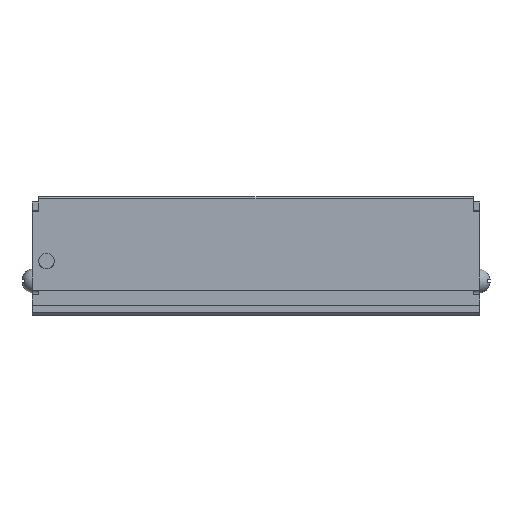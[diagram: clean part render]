
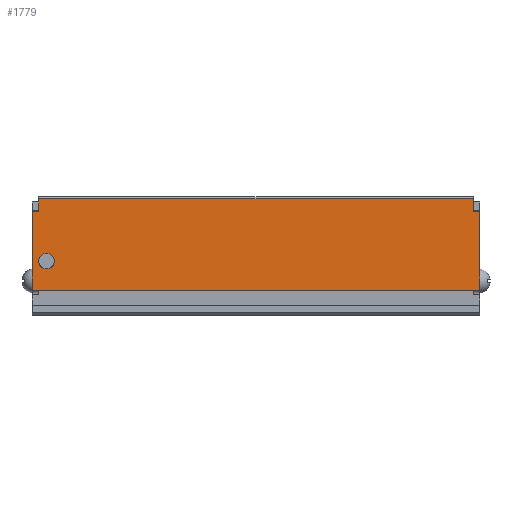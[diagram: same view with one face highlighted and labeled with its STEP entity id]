
A CAD part, top view. The second image highlights one B-rep face of the part: STEP entity #1779.
In plain terms, the highlighted planar face has unit normal (0, 0, 1) as drawn and (1, 0, 0) by its records, which use the part's own axes.
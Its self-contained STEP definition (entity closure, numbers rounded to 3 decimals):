
#117=DIRECTION('',(0.,0.,1.));
#118=VECTOR('',#117,1.5);
#119=CARTESIAN_POINT('',(9.,13.698,-51.));
#120=LINE('',#119,#118);
#133=CARTESIAN_POINT('',(9.,2.3,47.75));
#134=DIRECTION('',(1.,0.,0.));
#135=DIRECTION('',(0.,0.,-1.));
#136=AXIS2_PLACEMENT_3D('',#133,#134,#135);
#138=CARTESIAN_POINT('',(9.,2.3,47.75));
#139=DIRECTION('',(1.,0.,0.));
#140=DIRECTION('',(0.,0.,1.));
#141=AXIS2_PLACEMENT_3D('',#138,#139,#140);
#143=DIRECTION('',(0.,0.,-1.));
#144=VECTOR('',#143,1.5);
#145=CARTESIAN_POINT('',(9.,13.698,51.));
#146=LINE('',#145,#144);
#147=DIRECTION('',(0.,0.,-1.));
#148=VECTOR('',#147,99.);
#149=CARTESIAN_POINT('',(9.,16.5,49.5));
#150=LINE('',#149,#148);
#151=DIRECTION('',(0.,-1.,0.));
#152=VECTOR('',#151,2.801);
#153=CARTESIAN_POINT('',(9.,16.5,-49.5));
#154=LINE('',#153,#152);
#173=DIRECTION('',(0.,0.,-1.));
#174=VECTOR('',#173,102.);
#175=CARTESIAN_POINT('',(9.,-4.3,51.));
#176=LINE('',#175,#174);
#493=DIRECTION('',(0.,-1.,0.));
#494=VECTOR('',#493,2.802);
#495=CARTESIAN_POINT('',(9.,16.5,49.5));
#496=LINE('',#495,#494);
#755=DIRECTION('',(0.,-1.,0.));
#756=VECTOR('',#755,17.998);
#757=CARTESIAN_POINT('',(9.,13.698,51.));
#758=LINE('',#757,#756);
#963=DIRECTION('',(0.,1.,0.));
#964=VECTOR('',#963,17.998);
#965=CARTESIAN_POINT('',(9.,-4.3,-51.));
#966=LINE('',#965,#964);
#1263=CARTESIAN_POINT('',(9.,-4.3,-51.));
#1264=VERTEX_POINT('',#1263);
#1265=CARTESIAN_POINT('',(9.,13.698,-51.));
#1266=VERTEX_POINT('',#1265);
#1349=CARTESIAN_POINT('',(9.,16.5,-49.5));
#1351=VERTEX_POINT('',#1349);
#1363=CARTESIAN_POINT('',(9.,16.5,49.5));
#1364=VERTEX_POINT('',#1363);
#1365=CARTESIAN_POINT('',(9.,2.3,49.5));
#1367=VERTEX_POINT('',#1365);
#1371=CARTESIAN_POINT('',(9.,2.3,46.));
#1372=VERTEX_POINT('',#1371);
#1373=CARTESIAN_POINT('',(9.,13.699,-49.5));
#1375=VERTEX_POINT('',#1373);
#1435=CARTESIAN_POINT('',(9.,13.698,51.));
#1436=VERTEX_POINT('',#1435);
#1437=CARTESIAN_POINT('',(9.,-4.3,51.));
#1438=VERTEX_POINT('',#1437);
#1510=CARTESIAN_POINT('',(9.,13.698,49.5));
#1512=VERTEX_POINT('',#1510);
#1753=CARTESIAN_POINT('',(9.,13.699,-49.5));
#1754=DIRECTION('',(1.,0.,0.));
#1755=DIRECTION('',(0.,-1.,0.));
#1756=AXIS2_PLACEMENT_3D('',#1753,#1754,#1755);
#1757=PLANE('',#1756);
#1759=ORIENTED_EDGE('',*,*,#1758,.F.);
#1761=ORIENTED_EDGE('',*,*,#1760,.F.);
#1762=ORIENTED_EDGE('',*,*,#1694,.T.);
#1764=ORIENTED_EDGE('',*,*,#1763,.F.);
#1766=ORIENTED_EDGE('',*,*,#1765,.T.);
#1767=ORIENTED_EDGE('',*,*,#1737,.T.);
#1768=ORIENTED_EDGE('',*,*,#1709,.F.);
#1770=ORIENTED_EDGE('',*,*,#1769,.F.);
#1771=EDGE_LOOP('',(#1759,#1761,#1762,#1764,#1766,#1767,#1768,#1770));
#1772=FACE_OUTER_BOUND('',#1771,.F.);
#1774=ORIENTED_EDGE('',*,*,#1773,.T.);
#1776=ORIENTED_EDGE('',*,*,#1775,.T.);
#1777=EDGE_LOOP('',(#1774,#1776));
#1778=FACE_BOUND('',#1777,.F.);
#137=CIRCLE('',#136,1.75);
#142=CIRCLE('',#141,1.75);
#1694=EDGE_CURVE('',#1436,#1512,#146,.T.);
#1709=EDGE_CURVE('',#1266,#1375,#120,.T.);
#1737=EDGE_CURVE('',#1351,#1375,#154,.T.);
#1758=EDGE_CURVE('',#1438,#1264,#176,.T.);
#1760=EDGE_CURVE('',#1436,#1438,#758,.T.);
#1763=EDGE_CURVE('',#1364,#1512,#496,.T.);
#1765=EDGE_CURVE('',#1364,#1351,#150,.T.);
#1769=EDGE_CURVE('',#1264,#1266,#966,.T.);
#1773=EDGE_CURVE('',#1372,#1367,#137,.T.);
#1775=EDGE_CURVE('',#1367,#1372,#142,.T.);
#1779=ADVANCED_FACE('',(#1772,#1778),#1757,.T.);
